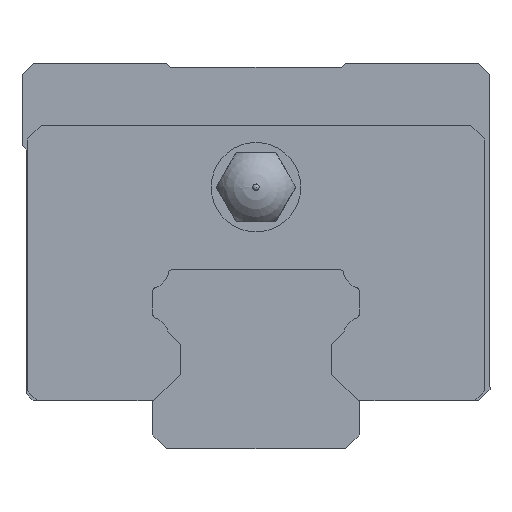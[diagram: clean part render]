
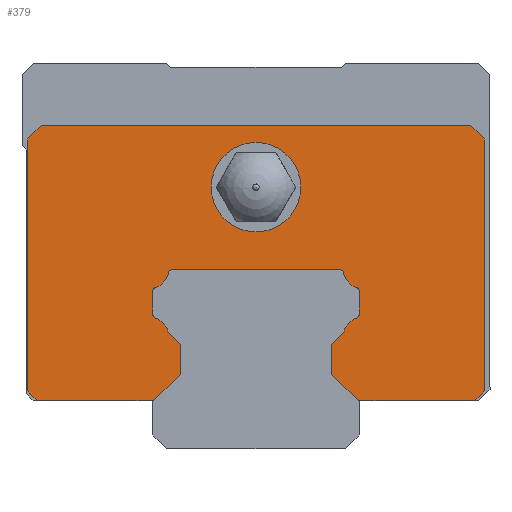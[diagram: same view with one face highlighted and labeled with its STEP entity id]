
A CAD part, front view. The second image highlights one B-rep face of the part: STEP entity #379.
In plain terms, the highlighted planar face has unit normal (0, -1, 0).
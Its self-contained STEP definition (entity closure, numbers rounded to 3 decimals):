
#175=FACE_BOUND('',#674,.T.);
#176=FACE_BOUND('',#675,.T.);
#253=CIRCLE('',#2286,0.3);
#255=CIRCLE('',#2289,1.4);
#257=CIRCLE('',#2298,1.4);
#259=CIRCLE('',#2301,0.3);
#261=CIRCLE('',#2305,0.3);
#263=CIRCLE('',#2308,1.4);
#265=CIRCLE('',#2311,0.3);
#267=CIRCLE('',#2315,0.3);
#269=CIRCLE('',#2318,1.4);
#271=CIRCLE('',#2321,0.3);
#276=CIRCLE('',#2334,3.25);
#379=ADVANCED_FACE('',(#175,#176),#494,.T.);
#494=PLANE('',#2336);
#674=EDGE_LOOP('',(#1015,#1016,#1017,#1018,#1019,#1020,#1021,#1022,#1023,#1024,#1025,#1026,#1027,#1028,#1029,#1030,#1031,#1032,#1033,#1034,#1035,#1036,#1037,#1038,#1039,#1040,#1041,#1042));
#675=EDGE_LOOP('',(#1043));
#1015=ORIENTED_EDGE('',*,*,#1669,.F.);
#1016=ORIENTED_EDGE('',*,*,#1666,.F.);
#1017=ORIENTED_EDGE('',*,*,#1663,.F.);
#1018=ORIENTED_EDGE('',*,*,#1660,.F.);
#1019=ORIENTED_EDGE('',*,*,#1657,.F.);
#1020=ORIENTED_EDGE('',*,*,#1654,.F.);
#1021=ORIENTED_EDGE('',*,*,#1707,.F.);
#1022=ORIENTED_EDGE('',*,*,#1704,.F.);
#1023=ORIENTED_EDGE('',*,*,#1701,.F.);
#1024=ORIENTED_EDGE('',*,*,#1698,.F.);
#1025=ORIENTED_EDGE('',*,*,#1695,.F.);
#1026=ORIENTED_EDGE('',*,*,#1692,.F.);
#1027=ORIENTED_EDGE('',*,*,#1689,.F.);
#1028=ORIENTED_EDGE('',*,*,#1686,.F.);
#1029=ORIENTED_EDGE('',*,*,#1683,.F.);
#1030=ORIENTED_EDGE('',*,*,#1680,.F.);
#1031=ORIENTED_EDGE('',*,*,#1677,.F.);
#1032=ORIENTED_EDGE('',*,*,#1674,.F.);
#1033=ORIENTED_EDGE('',*,*,#1671,.F.);
#1034=ORIENTED_EDGE('',*,*,#1602,.T.);
#1035=ORIENTED_EDGE('',*,*,#1710,.T.);
#1036=ORIENTED_EDGE('',*,*,#1713,.T.);
#1037=ORIENTED_EDGE('',*,*,#1715,.T.);
#1038=ORIENTED_EDGE('',*,*,#1717,.T.);
#1039=ORIENTED_EDGE('',*,*,#1719,.T.);
#1040=ORIENTED_EDGE('',*,*,#1722,.T.);
#1041=ORIENTED_EDGE('',*,*,#1723,.T.);
#1042=ORIENTED_EDGE('',*,*,#1582,.T.);
#1043=ORIENTED_EDGE('',*,*,#1725,.F.);
#1371=VERTEX_POINT('',#3094);
#1373=VERTEX_POINT('',#3097);
#1384=VERTEX_POINT('',#3124);
#1390=VERTEX_POINT('',#3136);
#1428=VERTEX_POINT('',#3240);
#1429=VERTEX_POINT('',#3242);
#1431=VERTEX_POINT('',#3248);
#1433=VERTEX_POINT('',#3254);
#1435=VERTEX_POINT('',#3260);
#1437=VERTEX_POINT('',#3266);
#1439=VERTEX_POINT('',#3275);
#1441=VERTEX_POINT('',#3281);
#1443=VERTEX_POINT('',#3287);
#1445=VERTEX_POINT('',#3293);
#1447=VERTEX_POINT('',#3299);
#1449=VERTEX_POINT('',#3305);
#1451=VERTEX_POINT('',#3311);
#1453=VERTEX_POINT('',#3317);
#1455=VERTEX_POINT('',#3323);
#1457=VERTEX_POINT('',#3329);
#1459=VERTEX_POINT('',#3335);
#1461=VERTEX_POINT('',#3341);
#1463=VERTEX_POINT('',#3350);
#1465=VERTEX_POINT('',#3356);
#1466=VERTEX_POINT('',#3360);
#1467=VERTEX_POINT('',#3364);
#1468=VERTEX_POINT('',#3368);
#1470=VERTEX_POINT('',#3374);
#1472=VERTEX_POINT('',#3382);
#1582=EDGE_CURVE('',#1373,#1371,#1872,.T.);
#1602=EDGE_CURVE('',#1384,#1390,#1892,.T.);
#1654=EDGE_CURVE('',#1428,#1429,#1940,.T.);
#1657=EDGE_CURVE('',#1429,#1431,#253,.T.);
#1660=EDGE_CURVE('',#1431,#1433,#255,.T.);
#1663=EDGE_CURVE('',#1433,#1435,#1945,.T.);
#1666=EDGE_CURVE('',#1435,#1437,#1948,.T.);
#1669=EDGE_CURVE('',#1437,#1371,#1951,.T.);
#1671=EDGE_CURVE('',#1384,#1439,#1953,.T.);
#1674=EDGE_CURVE('',#1439,#1441,#1956,.T.);
#1677=EDGE_CURVE('',#1441,#1443,#1959,.T.);
#1680=EDGE_CURVE('',#1443,#1445,#257,.T.);
#1683=EDGE_CURVE('',#1445,#1447,#259,.T.);
#1686=EDGE_CURVE('',#1447,#1449,#1964,.T.);
#1689=EDGE_CURVE('',#1449,#1451,#261,.T.);
#1692=EDGE_CURVE('',#1451,#1453,#263,.T.);
#1695=EDGE_CURVE('',#1453,#1455,#265,.T.);
#1698=EDGE_CURVE('',#1455,#1457,#1970,.T.);
#1701=EDGE_CURVE('',#1457,#1459,#267,.T.);
#1704=EDGE_CURVE('',#1459,#1461,#269,.T.);
#1707=EDGE_CURVE('',#1461,#1428,#271,.T.);
#1710=EDGE_CURVE('',#1390,#1463,#1976,.T.);
#1713=EDGE_CURVE('',#1463,#1465,#1978,.T.);
#1715=EDGE_CURVE('',#1465,#1466,#1980,.T.);
#1717=EDGE_CURVE('',#1466,#1467,#1982,.T.);
#1719=EDGE_CURVE('',#1467,#1468,#1984,.T.);
#1722=EDGE_CURVE('',#1468,#1470,#1986,.T.);
#1723=EDGE_CURVE('',#1470,#1373,#1987,.T.);
#1725=EDGE_CURVE('',#1472,#1472,#276,.T.);
#1872=LINE('',#3096,#2068);
#1892=LINE('',#3137,#2088);
#1940=LINE('',#3241,#2136);
#1945=LINE('',#3259,#2141);
#1948=LINE('',#3265,#2144);
#1951=LINE('',#3271,#2147);
#1953=LINE('',#3274,#2149);
#1956=LINE('',#3280,#2152);
#1959=LINE('',#3286,#2155);
#1964=LINE('',#3304,#2160);
#1970=LINE('',#3328,#2166);
#1976=LINE('',#3351,#2172);
#1978=LINE('',#3357,#2174);
#1980=LINE('',#3361,#2176);
#1982=LINE('',#3365,#2178);
#1984=LINE('',#3369,#2180);
#1986=LINE('',#3375,#2182);
#1987=LINE('',#3377,#2183);
#2068=VECTOR('',#2477,1.);
#2088=VECTOR('',#2503,1.);
#2136=VECTOR('',#2587,1.);
#2141=VECTOR('',#2606,1.);
#2144=VECTOR('',#2611,1.);
#2147=VECTOR('',#2616,1.);
#2149=VECTOR('',#2620,1.);
#2152=VECTOR('',#2625,1.);
#2155=VECTOR('',#2630,1.);
#2160=VECTOR('',#2649,1.);
#2166=VECTOR('',#2675,1.);
#2172=VECTOR('',#2701,1.);
#2174=VECTOR('',#2707,1.);
#2176=VECTOR('',#2711,1.);
#2178=VECTOR('',#2715,1.);
#2180=VECTOR('',#2719,1.);
#2182=VECTOR('',#2725,1.);
#2183=VECTOR('',#2728,1.);
#2286=AXIS2_PLACEMENT_3D('',#3247,#2592,#2593);
#2289=AXIS2_PLACEMENT_3D('',#3253,#2599,#2600);
#2298=AXIS2_PLACEMENT_3D('',#3292,#2635,#2636);
#2301=AXIS2_PLACEMENT_3D('',#3298,#2642,#2643);
#2305=AXIS2_PLACEMENT_3D('',#3310,#2654,#2655);
#2308=AXIS2_PLACEMENT_3D('',#3316,#2661,#2662);
#2311=AXIS2_PLACEMENT_3D('',#3322,#2668,#2669);
#2315=AXIS2_PLACEMENT_3D('',#3334,#2680,#2681);
#2318=AXIS2_PLACEMENT_3D('',#3340,#2687,#2688);
#2321=AXIS2_PLACEMENT_3D('',#3346,#2694,#2695);
#2334=AXIS2_PLACEMENT_3D('',#3381,#2733,#2734);
#2336=AXIS2_PLACEMENT_3D('',#3384,#2737,#2738);
#2477=DIRECTION('',(1.,0.,0.));
#2503=DIRECTION('',(1.,0.,0.));
#2587=DIRECTION('',(0.,0.,-1.));
#2592=DIRECTION('',(0.,-1.,0.));
#2593=DIRECTION('',(0.,0.,-1.));
#2599=DIRECTION('',(0.,1.,0.));
#2600=DIRECTION('',(0.,0.,-1.));
#2606=DIRECTION('',(0.707,0.,-0.707));
#2611=DIRECTION('',(0.,0.,-1.));
#2616=DIRECTION('',(-0.707,0.,-0.707));
#2620=DIRECTION('',(-0.707,0.,0.707));
#2625=DIRECTION('',(0.,0.,1.));
#2630=DIRECTION('',(0.707,0.,0.707));
#2635=DIRECTION('',(0.,1.,0.));
#2636=DIRECTION('',(0.,0.,-1.));
#2642=DIRECTION('',(0.,-1.,0.));
#2643=DIRECTION('',(0.,0.,-1.));
#2649=DIRECTION('',(0.,0.,1.));
#2654=DIRECTION('',(0.,-1.,0.));
#2655=DIRECTION('',(0.,0.,-1.));
#2661=DIRECTION('',(0.,1.,0.));
#2662=DIRECTION('',(0.,0.,-1.));
#2668=DIRECTION('',(0.,-1.,0.));
#2669=DIRECTION('',(0.,0.,-1.));
#2675=DIRECTION('',(-1.,0.,0.));
#2680=DIRECTION('',(0.,-1.,0.));
#2681=DIRECTION('',(0.,0.,-1.));
#2687=DIRECTION('',(0.,1.,0.));
#2688=DIRECTION('',(0.,0.,-1.));
#2694=DIRECTION('',(0.,-1.,0.));
#2695=DIRECTION('',(0.,0.,-1.));
#2701=DIRECTION('',(0.707,0.,0.707));
#2707=DIRECTION('',(0.,0.,1.));
#2711=DIRECTION('',(-0.707,0.,0.707));
#2715=DIRECTION('',(-1.,0.,0.));
#2719=DIRECTION('',(-0.707,0.,-0.707));
#2725=DIRECTION('',(0.,0.,-1.));
#2728=DIRECTION('',(0.707,0.,-0.707));
#2733=DIRECTION('',(0.,-1.,0.));
#2734=DIRECTION('',(1.,0.,0.));
#2737=DIRECTION('',(0.,-1.,0.));
#2738=DIRECTION('',(0.,0.,-1.));
#3094=CARTESIAN_POINT('',(-7.4,-7.5,3.5));
#3096=CARTESIAN_POINT('',(-15.9,-7.5,3.5));
#3097=CARTESIAN_POINT('',(-15.9,-7.5,3.5));
#3124=CARTESIAN_POINT('',(7.4,-7.5,3.5));
#3136=CARTESIAN_POINT('',(15.9,-7.5,3.5));
#3137=CARTESIAN_POINT('',(-15.9,-7.5,3.5));
#3240=CARTESIAN_POINT('',(-7.5,-7.5,11.428));
#3241=CARTESIAN_POINT('',(-7.5,-7.5,19.));
#3242=CARTESIAN_POINT('',(-7.5,-7.5,9.772));
#3247=CARTESIAN_POINT('',(-7.2,-7.5,9.772));
#3248=CARTESIAN_POINT('',(-7.295,-7.5,9.488));
#3253=CARTESIAN_POINT('',(-7.74,-7.5,8.16));
#3254=CARTESIAN_POINT('',(-6.376,-7.5,8.476));
#3259=CARTESIAN_POINT('',(-8.45,-7.5,10.55));
#3260=CARTESIAN_POINT('',(-5.5,-7.5,7.6));
#3265=CARTESIAN_POINT('',(-5.5,-7.5,19.));
#3266=CARTESIAN_POINT('',(-5.5,-7.5,5.4));
#3271=CARTESIAN_POINT('',(4.05,-7.5,14.95));
#3274=CARTESIAN_POINT('',(-4.05,-7.5,14.95));
#3275=CARTESIAN_POINT('',(5.5,-7.5,5.4));
#3280=CARTESIAN_POINT('',(5.5,-7.5,19.));
#3281=CARTESIAN_POINT('',(5.5,-7.5,7.6));
#3286=CARTESIAN_POINT('',(8.45,-7.5,10.55));
#3287=CARTESIAN_POINT('',(6.376,-7.5,8.476));
#3292=CARTESIAN_POINT('',(7.74,-7.5,8.16));
#3293=CARTESIAN_POINT('',(7.295,-7.5,9.488));
#3298=CARTESIAN_POINT('',(7.2,-7.5,9.772));
#3299=CARTESIAN_POINT('',(7.5,-7.5,9.772));
#3304=CARTESIAN_POINT('',(7.5,-7.5,19.));
#3305=CARTESIAN_POINT('',(7.5,-7.5,11.428));
#3310=CARTESIAN_POINT('',(7.2,-7.5,11.428));
#3311=CARTESIAN_POINT('',(7.295,-7.5,11.712));
#3316=CARTESIAN_POINT('',(7.74,-7.5,13.04));
#3317=CARTESIAN_POINT('',(6.368,-7.5,12.76));
#3322=CARTESIAN_POINT('',(6.074,-7.5,12.7));
#3323=CARTESIAN_POINT('',(6.074,-7.5,13.));
#3328=CARTESIAN_POINT('',(0.,-7.5,13.));
#3329=CARTESIAN_POINT('',(-6.074,-7.5,13.));
#3334=CARTESIAN_POINT('',(-6.074,-7.5,12.7));
#3335=CARTESIAN_POINT('',(-6.368,-7.5,12.76));
#3340=CARTESIAN_POINT('',(-7.74,-7.5,13.04));
#3341=CARTESIAN_POINT('',(-7.295,-7.5,11.712));
#3346=CARTESIAN_POINT('',(-7.2,-7.5,11.428));
#3350=CARTESIAN_POINT('',(16.6,-7.5,4.2));
#3351=CARTESIAN_POINT('',(15.9,-7.5,3.5));
#3356=CARTESIAN_POINT('',(16.6,-7.5,22.5));
#3357=CARTESIAN_POINT('',(16.6,-7.5,4.2));
#3360=CARTESIAN_POINT('',(15.6,-7.5,23.5));
#3361=CARTESIAN_POINT('',(16.6,-7.5,22.5));
#3364=CARTESIAN_POINT('',(-15.6,-7.5,23.5));
#3365=CARTESIAN_POINT('',(15.6,-7.5,23.5));
#3368=CARTESIAN_POINT('',(-16.6,-7.5,22.5));
#3369=CARTESIAN_POINT('',(-15.6,-7.5,23.5));
#3374=CARTESIAN_POINT('',(-16.6,-7.5,4.2));
#3375=CARTESIAN_POINT('',(-16.6,-7.5,22.5));
#3377=CARTESIAN_POINT('',(-16.6,-7.5,4.2));
#3381=CARTESIAN_POINT('',(0.,-7.5,19.));
#3382=CARTESIAN_POINT('',(3.25,-7.5,19.));
#3384=CARTESIAN_POINT('',(0.,-7.5,19.));
